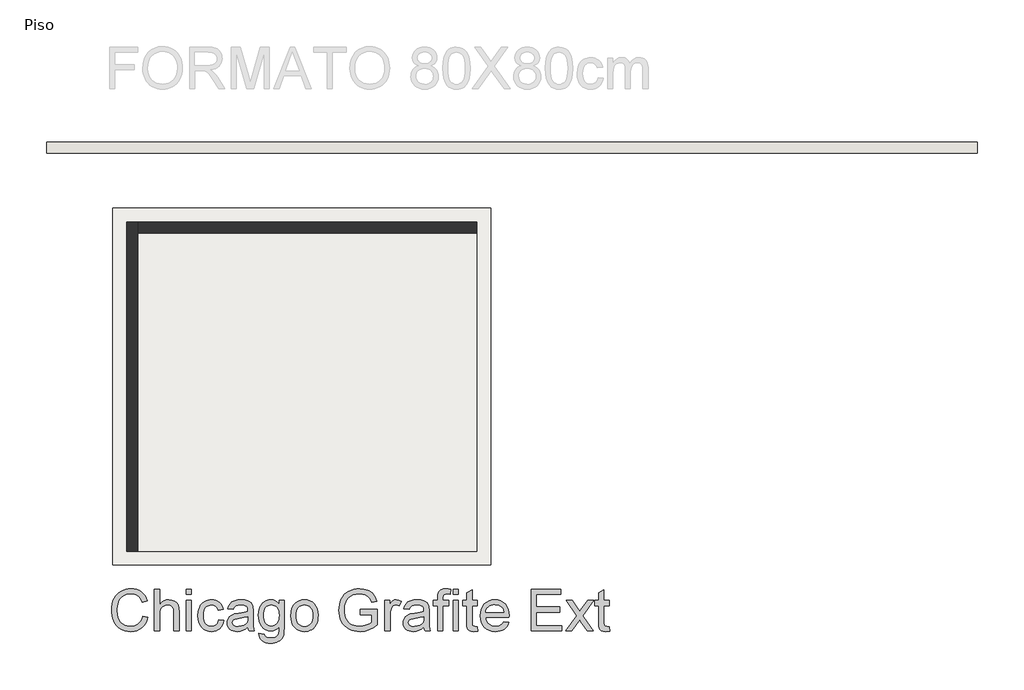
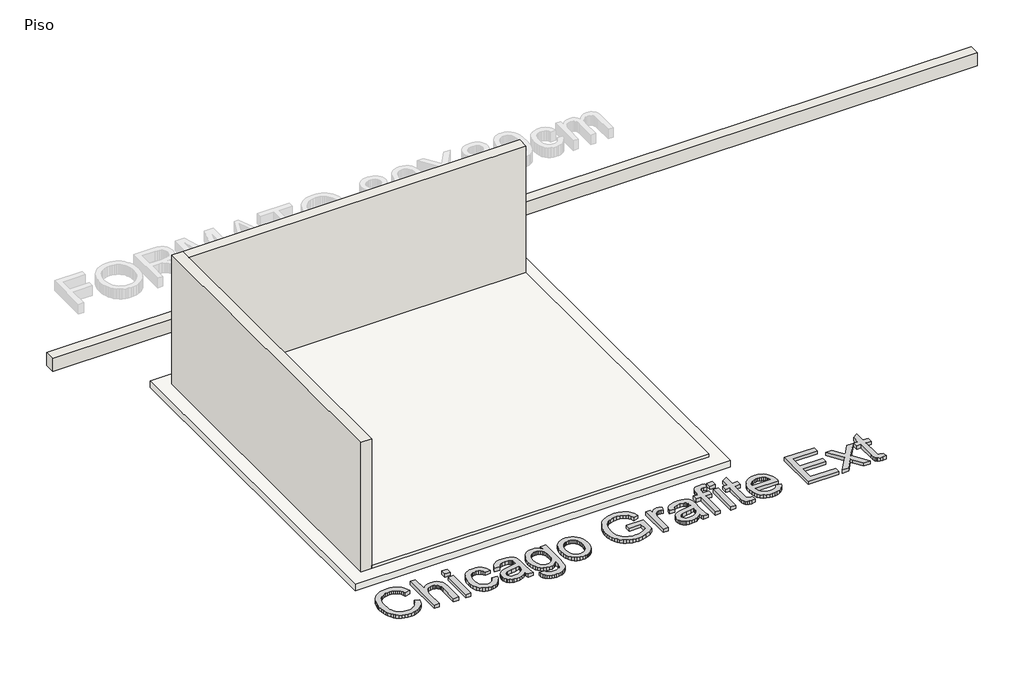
# One storey, part 1 of 2: 3 walls, 2 slabs, 1 proxy.
"""IFC4 building model written with IfcOpenShell, lengths in millimetres."""

from ifc_helpers import new_model, si_unit, frame, origin, origin_with_axes, place, context, project, spatial, polyline, outline, extrude, faceted_brep, element, save

model = new_model("IFC4")

# Units and contexts
model_context = context("Model", 3, world=origin())
ifc_project = project(units=[si_unit("LENGTHUNIT", "METRE", prefix="MILLI")], contexts=[model_context])

# Site, building, storey
site = spatial("IfcSite", under=ifc_project)
building = spatial("IfcBuilding", under=site)
storey = spatial("IfcBuildingStorey", under=building, Name="Piso", Elevation=0.0)

# Proxy
placement = place(None, origin())
element("IfcBuildingElementProxy", 1, Name="600mm Arial", ObjectType="600mm Arial", at=placement, inside=storey, context=model_context, shape_type="SweptSolid", body=[
    extrude(outline(polyline([(93081.8833446, -4951.8152741), (93157.2255772, -4971.2394434), (93142.3171594, -5018.0938141), (93122.4607287, -5059.0344816), (93097.6562852, -5094.0614461), (93067.9038288, -5123.1747075), (93033.8747443, -5146.0615661), (92996.2404162, -5162.4093222), (92955.0008445, -5172.2179759), (92910.1560293, -5175.4875272), (92864.2121666, -5173.0135207), (92822.7656613, -5165.5915015), (92785.8165134, -5153.2214694), (92753.3647229, -5135.9034245), (92724.9642329, -5113.8948841), (92700.1689864, -5087.4533657), (92678.9789835, -5056.5788693), (92661.3942241, -5021.2713948), (92647.5848538, -4983.0576525), (92637.7210178, -4943.4643528), (92631.8027162, -4902.4914956), (92629.829949, -4860.1390809), (92632.0602336, -4814.6964574), (92638.7510873, -4772.2520723), (92649.9025103, -4732.8059253), (92665.5145025, -4696.3580166), (92685.237576, -4663.510753), (92708.7222428, -4634.8665412), (92735.9685031, -4610.4253811), (92766.9763568, -4590.1872728), (92800.6927416, -4574.3177633), (92836.0645955, -4562.9823993), (92873.0919183, -4556.1811809), (92911.7747101, -4553.9141081), (92954.8674873, -4556.847967), (92994.3826121, -4565.6495438), (93030.3200845, -4580.3188383), (93062.6799045, -4600.8558507), (93090.9286432, -4626.717955), (93114.5328717, -4657.3625252), (93133.49259, -4692.7895613), (93147.8077982, -4732.9990634), (93072.4655656, -4750.9517047), (93060.6013712, -4721.3234085), (93046.3459439, -4696.0085288), (93029.6992836, -4675.0070654), (93010.6613904, -4658.3190183), (92989.1218995, -4645.6040969), (92964.9704466, -4636.5220101), (92938.2070314, -4631.0727581), (92908.8316541, -4629.2563407), (92875.0324958, -4631.2704947), (92844.1212111, -4637.3129564), (92816.0978002, -4647.383726), (92790.9622628, -4661.4828035), (92769.0318974, -4678.9755924), (92750.6240021, -4699.2274962), (92735.7385768, -4722.238515), (92724.3756217, -4748.0086488), (92709.9730416, -4803.1541598), (92705.1721816, -4859.9919281), (92710.8559584, -4929.5952016), (92717.9606794, -4960.8651712), (92727.9072889, -4989.780696), (92740.8567351, -5015.7669604), (92756.9699665, -5038.2491489), (92776.246983, -5057.2272613), (92798.6877847, -5072.7012977), (92823.2025212, -5084.7080463), (92848.701342, -5093.2842953), (92875.1842471, -5098.4300448), (92902.6512366, -5100.1452946), (92935.4065297, -5097.8092439), (92965.5406637, -5090.8010919), (92993.0536384, -5079.1208385), (93017.9454539, -5062.7684838), (93039.627499, -5041.8176042), (93057.5111625, -5016.3417761), (93071.5964443, -4986.3409993), (93081.8833446, -4951.8152741)])), origin_with_axes(), (0.0, 0.0, 1.0), 50.0),
    extrude(outline(polyline([(93251.403368, -5166.0697481), (93251.403368, -4563.3318872), (93326.7456006, -4563.3318872), (93326.7456006, -4784.9440011), (93354.4195237, -4753.9131548), (93385.4963553, -4731.7482646), (93419.9760952, -4718.4493305), (93457.8587437, -4714.0163524), (93503.3657465, -4718.8540007), (93542.4716026, -4733.3669454), (93573.2633256, -4756.4147524), (93593.8279291, -4786.8569875), (93605.416212, -4828.6851703), (93609.2789729, -4885.8908206), (93609.2789729, -5166.0697481), (93533.9367403, -5166.0697481), (93533.9367403, -4893.6899189), (93532.4376212, -4868.2508789), (93527.9402638, -4846.5274471), (93520.4446681, -4828.5196234), (93509.9508342, -4814.2274079), (93496.7070824, -4803.3472979), (93480.961733, -4795.5757907), (93462.714786, -4790.9128865), (93441.9662415, -4789.358585), (93410.1260548, -4793.5524398), (93380.2356427, -4806.134004), (93355.4771844, -4825.8892672), (93339.0328593, -4851.6042186), (93329.8174153, -4885.780456), (93326.7456006, -4930.9195768), (93326.7456006, -5166.0697481), (93251.403368, -5166.0697481)])), origin_with_axes(), (0.0, 0.0, 1.0), 50.0),
    extrude(outline(polyline([(93712.8745428, -4638.6741198), (93712.8745428, -4563.3318872), (93788.2167754, -4563.3318872), (93788.2167754, -4638.6741198), (93712.8745428, -4638.6741198)])), origin_with_axes(), (0.0, 0.0, 1.0), 50.0),
    extrude(outline(polyline([(93712.8745428, -5166.0697481), (93712.8745428, -4723.4341315), (93788.2167754, -4723.4341315), (93788.2167754, -5166.0697481), (93712.8745428, -5166.0697481)])), origin_with_axes(), (0.0, 0.0, 1.0), 50.0),
    extrude(outline(polyline([(94183.7634966, -5005.9675038), (94259.1057292, -5015.3852829), (94250.9111578, -5050.9364792), (94238.0996673, -5082.3949883), (94220.6712578, -5109.7608102), (94198.6259292, -5133.0339449), (94172.8925836, -5151.6073872), (94144.4001231, -5164.8741316), (94113.1485476, -5172.8341783), (94079.1378572, -5175.4875272), (94036.8820115, -5171.7857146), (93998.9947645, -5160.6802769), (93965.4761162, -5142.171214), (93936.3260666, -5116.2585259), (93912.7310352, -5083.4296564), (93895.8774413, -5044.172049), (93885.7652849, -4998.4857037), (93882.3945661, -4946.3706206), (93888.1519194, -4879.324127), (93895.3486109, -4849.1532048), (93905.423979, -4821.2171658), (93918.4470017, -4796.07703), (93934.4866567, -4774.2938173), (93953.542944, -4755.8675279), (93975.6158637, -4740.7981617), (93999.7075359, -4729.0811201), (94024.8200806, -4720.7118047), (94050.9534978, -4715.6902155), (94078.1077876, -4714.0163524), (94111.5344654, -4716.3156149), (94141.7697668, -4723.2134023), (94168.813692, -4734.7097146), (94192.6662409, -4750.8045519), (94212.9227432, -4771.1300322), (94229.1785289, -4795.3182734), (94241.4335979, -4823.3692755), (94249.6879501, -4855.2830386), (94174.3457175, -4864.7008176), (94160.6789014, -4831.8305614), (94139.396928, -4808.2677196), (94111.6770196, -4794.0858687), (94078.6963988, -4789.358585), (94053.0964104, -4791.6854386), (94030.0072167, -4798.6659995), (94009.4288176, -4810.3002676), (93991.3612131, -4826.5882429), (93976.6505318, -4847.9070046), (93966.1429023, -4874.6336315), (93959.8383246, -4906.7681238), (93957.7367987, -4944.3104814), (93959.7923394, -4982.4184576), (93965.9589613, -5014.9254304), (93976.2366646, -5041.8313998), (93990.6254491, -5063.1363658), (94008.3343687, -5079.3277722), (94028.5724769, -5090.8930624), (94051.3397739, -5097.8322365), (94076.6362596, -5100.1452946), (94115.6501452, -5094.3695472), (94132.5221332, -5087.1498631), (94147.6374847, -5077.0423053), (94160.5731353, -5063.9365092), (94170.9060209, -5047.7221102), (94178.6361413, -5028.3991084), (94183.7634966, -5005.9675038)])), origin_with_axes(), (0.0, 0.0, 1.0), 50.0),
    extrude(outline(polyline([(94607.563555, -5109.5630736), (94571.5663018, -5140.428373), (94534.5021908, -5160.6250946), (94495.5250934, -5171.771919), (94453.788881, -5175.4875272), (94420.2426416, -5173.252644), (94390.8258776, -5166.5479947), (94365.5385889, -5155.3735791), (94344.3807757, -5139.7293972), (94327.6743346, -5120.6087305), (94315.7411624, -5099.0048604), (94308.581259, -5074.9177867), (94306.1946246, -5048.3475096), (94309.7998681, -5017.1143282), (94320.6155988, -4988.7506264), (94337.2990473, -4964.4704147), (94358.5074443, -4945.4877038), (94383.4314495, -4931.140306), (94411.2617224, -4920.7660337), (94476.4504119, -4909.4352683), (94553.4849017, -4897.5158916), (94607.1220966, -4883.5363758), (94607.563555, -4866.7609568), (94602.3764189, -4833.1365425), (94595.8924987, -4820.6837369), (94586.8150105, -4811.1371991), (94571.1248434, -4801.6090555), (94552.0133738, -4794.8032386), (94503.5265268, -4789.358585), (94458.6449234, -4792.9822227), (94427.3013774, -4803.8531356), (94405.9274335, -4823.9578867), (94390.9546363, -4855.2830386), (94315.6124037, -4845.8652595), (94328.6906086, -4804.662476), (94348.2067484, -4772.2888605), (94375.9818391, -4747.5304022), (94413.8368964, -4729.1730906), (94460.1348455, -4717.805537), (94513.2386115, -4714.0163524), (94564.1718737, -4717.3640786), (94604.5469227, -4727.407257), (94634.9891578, -4742.5088129), (94656.1239784, -4761.0316714), (94670.1402824, -4783.9323256), (94679.2269677, -4812.1672687), (94682.9057876, -4878.0917223), (94682.9057876, -4971.8280546), (94686.7317604, -5102.7204685), (94692.3971431, -5135.07569), (94701.7413458, -5166.0697481), (94626.3991132, -5166.0697481), (94614.3325837, -5139.87655), (94607.563555, -5109.5630736)]), holes=[polyline([(94607.563555, -4958.8786084), (94556.9429925, -4971.4233844), (94486.0153438, -4981.9815977), (94421.1945363, -4994.1952799), (94404.3271468, -5002.5462012), (94391.8375531, -5014.0609077), (94384.1120312, -5027.8564825), (94381.5368572, -5043.0500089), (94387.1470576, -5065.4540224), (94403.9776589, -5083.811334), (94431.660779, -5096.0618044), (94469.828536, -5100.1452946), (94510.2955555, -5095.6387401), (94546.0536854, -5082.1190768), (94575.0427867, -5062.1982668), (94595.20272, -5038.4882722), (94604.1422525, -5014.0609077), (94607.1220966, -4980.2157641), (94607.563555, -4958.8786084)])]), origin_with_axes(), (0.0, 0.0, 1.0), 50.0),
    extrude(outline(polyline([(94767.6657993, -5203.7408644), (94843.0080319, -5213.1586435), (94851.322165, -5236.7030912), (94867.4353964, -5252.889899), (94899.1100362, -5265.4714632), (94940.5703371, -5269.6653179), (94984.7897529, -5264.9196402), (95002.6504237, -5258.987543), (95017.6784033, -5250.682607), (95040.487087, -5227.8739233), (95054.4666028, -5197.4132941), (95058.5500929, -5165.0028903), (95059.6169507, -5109.5630736), (95034.5457927, -5134.2847437), (95006.568367, -5151.9430795), (94975.6846735, -5162.5380809), (94941.8947122, -5166.0697481), (94900.5861627, -5161.9586668), (94864.216429, -5149.6254229), (94832.785511, -5129.0700164), (94806.2934088, -5100.2924474), (94785.2735513, -5065.7667221), (94770.2593674, -5027.9668471), (94761.250857, -4986.8928223), (94758.2480203, -4942.5446478), (94763.6374915, -4881.7153599), (94779.8059052, -4825.7789026), (94791.7896612, -4800.5559933), (94806.1830442, -4778.3773075), (94822.9860544, -4759.2428452), (94842.1986916, -4743.1526064), (94863.5128546, -4730.4054953), (94886.6204425, -4721.3004159), (94911.521455, -4715.8373683), (94938.2158923, -4714.0163524), (94973.4497904, -4718.1366308), (95005.4279328, -4730.4974658), (95034.1503196, -4751.0988575), (95059.6169507, -4779.940806), (95059.6169507, -4723.4341315), (95134.9591833, -4723.4341315), (95134.9591833, -5105.5899481), (95129.8088354, -5193.8264446), (95123.3709005, -5226.6461171), (95114.3577916, -5251.9334058), (95102.5533781, -5272.3278639), (95087.7415292, -5290.4690448), (95069.9222451, -5306.3569484), (95049.0955256, -5319.9915749), (95025.472903, -5330.9360642), (94999.2659094, -5338.7535566), (94970.4745447, -5343.4440521), (94939.0988091, -5345.0075505), (94902.1864494, -5342.8048571), (94868.9988949, -5336.1967768), (94839.5361456, -5325.1833095), (94813.7982015, -5309.7644554), (94793.0082703, -5289.9218203), (94778.3895595, -5265.6370101), (94769.9420692, -5236.9100248), (94767.6657993, -5203.7408644)]), holes=[polyline([(94833.5902529, -4937.3942999), (94835.5998083, -4974.6469504), (94841.6284745, -5006.5009327), (94851.6762515, -5032.9562467), (94865.7431392, -5054.0128924), (94882.8450535, -5070.07554), (94901.9979099, -5081.5488597), (94923.2017084, -5088.4328515), (94946.456449, -5090.7275155), (94969.4812634, -5088.4466471), (94990.5838943, -5081.604042), (95009.7643418, -5070.1997001), (95027.0226059, -5054.2336216), (95041.2826318, -5033.3839095), (95051.4683645, -5007.3286672), (95057.5798042, -4976.0678946), (95059.6169507, -4939.6015919), (95057.5200233, -4904.6574008), (95051.2292412, -4874.2841436), (95040.7446043, -4848.4818202), (95026.0661127, -4827.2504305), (95008.4353681, -4810.6727481), (94989.0939722, -4798.8315464), (94968.0419251, -4791.7268254), (94945.2792266, -4789.358585), (94922.8982057, -4791.6900372), (94902.2554273, -4798.6843936), (94883.3508912, -4810.3416543), (94866.1845976, -4826.6618193), (94851.9245718, -4847.5713122), (94841.7388391, -4872.9965566), (94835.6273994, -4902.9375525), (94833.5902529, -4937.3942999)])]), origin_with_axes(), (0.0, 0.0, 1.0), 50.0),
    extrude(outline(polyline([(95229.1369741, -4944.7519398), (95233.2112672, -4887.4267279), (95245.4341465, -4838.029373), (95265.8056119, -4796.5598751), (95294.3256636, -4763.0182342), (95323.0388533, -4741.5799109), (95354.7318872, -4726.2668229), (95389.4047653, -4717.07897), (95427.0574875, -4714.0163524), (95468.6235544, -4717.7457561), (95506.2072987, -4728.9339673), (95539.8087205, -4747.580986), (95569.4278196, -4773.686812), (95593.6022652, -4806.3685288), (95610.8697264, -4844.7432194), (95621.2302031, -4888.8108839), (95624.6836953, -4938.5715223), (95623.156985, -4978.900586), (95618.5768542, -5014.6863071), (95610.9433028, -5045.9286855), (95600.2563308, -5072.6277213), (95586.6492955, -5095.6893239), (95570.2555541, -5116.0194026), (95551.0751066, -5133.6179576), (95529.1079529, -5148.4849887), (95505.2094188, -5160.2985993), (95480.2348299, -5168.7368926), (95454.1841861, -5173.7998685), (95427.0574875, -5175.4875272), (95384.8844153, -5171.771919), (95346.951183, -5160.6250946), (95313.2577908, -5142.0470538), (95283.8042386, -5116.0377967), (95259.8873104, -5083.0387818), (95242.8037902, -5043.4914673), (95232.5536781, -4997.3958533), (95229.1369741, -4944.7519398)]), holes=[polyline([(95304.4792067, -4944.604787), (95306.6589075, -4981.1492647), (95313.19801, -5012.7917148), (95324.0965141, -5039.5321373), (95339.3544198, -5061.3705323), (95357.9140665, -5078.3344908), (95378.7177933, -5090.451604), (95401.7656003, -5097.7218719), (95427.0574875, -5100.1452946), (95452.220616, -5097.7080763), (95475.1764525, -5090.3964217), (95495.924997, -5078.2103306), (95514.4662495, -5061.1498031), (95529.7241553, -5039.0952775), (95540.6226594, -5011.9271921), (95547.1617619, -4979.645547), (95549.3414627, -4942.2503422), (95547.1479663, -4906.8646928), (95540.5674771, -4876.0499772), (95529.5999951, -4849.8061954), (95514.2455203, -4828.1333473), (95495.6352899, -4811.1693888), (95474.900541, -4799.0522756), (95452.0412735, -4791.7820077), (95427.0574875, -4789.358585), (95401.7656003, -4791.7728106), (95378.7177933, -4799.0154874), (95357.9140665, -4811.0866154), (95339.3544198, -4827.9861945), (95324.0965141, -4849.7602101), (95313.19801, -4876.4546474), (95306.6589075, -4908.0695063), (95304.4792067, -4944.604787)])]), origin_with_axes(), (0.0, 0.0, 1.0), 50.0),
    extrude(outline(polyline([(96236.8393353, -4930.6252712), (96236.8393353, -4855.2830386), (96481.7015913, -4855.2830386), (96481.7015913, -5080.5739724), (96422.1966785, -5121.9606969), (96360.8155676, -5151.6487739), (96297.7054114, -5169.5278388), (96233.0133625, -5175.4875272), (96189.7366443, -5173.1192868), (96148.4924741, -5166.0145658), (96109.280852, -5154.1733641), (96072.1017778, -5137.5956817), (96038.1554667, -5116.5298389), (96008.6421337, -5091.2241562), (95983.5617786, -5061.6786334), (95962.9144017, -5027.8932707), (95946.7873747, -4990.9487213), (95935.2680697, -4951.9256387), (95928.3564867, -4910.8240228), (95926.0526257, -4867.6438736), (95928.3472897, -4824.4591259), (95935.2312815, -4782.7551032), (95946.7046012, -4742.5318056), (95962.7672489, -4703.789233), (95983.1341158, -4668.2288396), (96007.5200936, -4637.5520797), (96035.9251821, -4611.7589533), (96068.3493815, -4590.8494604), (96104.0891173, -4574.6902438), (96142.4408153, -4563.1479462), (96183.4044755, -4556.2225676), (96226.9800978, -4553.9141081), (96289.0417904, -4559.2667911), (96344.8494891, -4575.3248402), (96369.7688957, -4587.07867), (96391.8464139, -4600.9294271), (96411.0820438, -4616.8771116), (96427.4757852, -4634.9217235), (96453.8345301, -4678.9388042), (96473.0195762, -4734.6177441), (96403.5634555, -4754.1890663), (96388.0572294, -4714.4762049), (96369.2032771, -4684.5122164), (96344.2608779, -4661.9242619), (96310.4893107, -4644.3395025), (96270.2246263, -4633.0271312), (96225.8028754, -4629.2563407), (96173.8027554, -4633.3214368), (96129.3442163, -4645.5167249), (96092.592805, -4664.3154949), (96063.7140683, -4688.1910364), (96041.5491781, -4715.9109447), (96024.939306, -4746.2428152), (96007.2809703, -4803.1173716), (96001.3948584, -4864.5536648), (96003.1652905, -4902.1741974), (96008.4765868, -4936.6033536), (96017.3287473, -4967.8411335), (96029.721772, -4995.8875371), (96045.4947125, -5020.6367983), (96064.4866205, -5041.9831511), (96086.697496, -5059.9265954), (96112.1273389, -5074.4671313), (96139.5851313, -5085.7013277), (96167.8798553, -5093.7257537), (96197.0115108, -5098.5404094), (96226.9800978, -5100.1452946), (96279.1641588, -5095.3076463), (96330.0606328, -5080.7947016), (96374.2616546, -5060.8003152), (96406.3593586, -5039.5183418), (96406.3593586, -4930.6252712), (96236.8393353, -4930.6252712)])), origin_with_axes(), (0.0, 0.0, 1.0), 50.0),
    extrude(outline(polyline([(96594.7149402, -5166.0697481), (96594.7149402, -4723.4341315), (96660.6393937, -4723.4341315), (96660.6393937, -4788.9171266), (96684.9931818, -4750.9517047), (96707.4339835, -4728.5844794), (96729.9483616, -4717.6583842), (96754.5228789, -4714.0163524), (96792.0468424, -4719.8288879), (96830.1594171, -4737.2664945), (96804.9962886, -4804.8096288), (96778.508785, -4793.221346), (96752.0212813, -4789.358585), (96729.5252973, -4793.0741932), (96709.4205463, -4804.2210176), (96693.1785562, -4821.9529298), (96682.270855, -4845.4238011), (96673.1105933, -4887.5095013), (96670.0571728, -4933.4211743), (96670.0571728, -5166.0697481), (96594.7149402, -5166.0697481)])), origin_with_axes(), (0.0, 0.0, 1.0), 50.0),
    extrude(outline(polyline([(97159.7816848, -5109.5630736), (97123.7844315, -5140.428373), (97086.7203205, -5160.6250946), (97047.7432231, -5171.771919), (97006.0070108, -5175.4875272), (96972.4607713, -5173.252644), (96943.0440073, -5166.5479947), (96917.7567187, -5155.3735791), (96896.5989054, -5139.7293972), (96879.8924643, -5120.6087305), (96867.9592921, -5099.0048604), (96860.7993888, -5074.9177867), (96858.4127543, -5048.3475096), (96862.0179979, -5017.1143282), (96872.8337285, -4988.7506264), (96889.517177, -4964.4704147), (96910.725574, -4945.4877038), (96935.6495792, -4931.140306), (96963.4798521, -4920.7660337), (97028.6685417, -4909.4352683), (97105.7030315, -4897.5158916), (97159.3402264, -4883.5363758), (97159.7816848, -4866.7609568), (97154.5945486, -4833.1365425), (97148.1106285, -4820.6837369), (97139.0331402, -4811.1371991), (97123.3429731, -4801.6090555), (97104.2315035, -4794.8032386), (97055.7446565, -4789.358585), (97010.8630531, -4792.9822227), (96979.5195071, -4803.8531356), (96958.1455632, -4823.9578867), (96943.172766, -4855.2830386), (96867.8305334, -4845.8652595), (96880.9087383, -4804.662476), (96900.4248782, -4772.2888605), (96928.1999688, -4747.5304022), (96966.0550261, -4729.1730906), (97012.3529752, -4717.805537), (97065.4567412, -4714.0163524), (97116.3900034, -4717.3640786), (97156.7650524, -4727.407257), (97187.2072875, -4742.5088129), (97208.3421081, -4761.0316714), (97222.3584121, -4783.9323256), (97231.4450974, -4812.1672687), (97235.1239174, -4878.0917223), (97235.1239174, -4971.8280546), (97238.9498901, -5102.7204685), (97244.6152729, -5135.07569), (97253.9594755, -5166.0697481), (97178.6172429, -5166.0697481), (97166.5507135, -5139.87655), (97159.7816848, -5109.5630736)]), holes=[polyline([(97159.7816848, -4958.8786084), (97109.1611222, -4971.4233844), (97038.2334736, -4981.9815977), (96973.412666, -4994.1952799), (96956.5452765, -5002.5462012), (96944.0556828, -5014.0609077), (96936.3301609, -5027.8564825), (96933.7549869, -5043.0500089), (96939.3651874, -5065.4540224), (96956.1957886, -5083.811334), (96983.8789088, -5096.0618044), (97022.0466658, -5100.1452946), (97062.5136852, -5095.6387401), (97098.2718152, -5082.1190768), (97127.2609164, -5062.1982668), (97147.4208497, -5038.4882722), (97156.3603822, -5014.0609077), (97159.3402264, -4980.2157641), (97159.7816848, -4958.8786084)])]), origin_with_axes(), (0.0, 0.0, 1.0), 50.0),
    extrude(outline(polyline([(97357.5550454, -5166.0697481), (97357.5550454, -4798.7763641), (97291.6305918, -4798.7763641), (97291.6305918, -4723.4341315), (97357.5550454, -4723.4341315), (97357.5550454, -4678.8468337), (97359.5416081, -4641.9482696), (97365.5012965, -4616.0125889), (97380.6580347, -4590.959825), (97404.0553296, -4571.1309855), (97436.7968271, -4558.2183275), (97479.9861734, -4553.9141081), (97512.6908827, -4555.9742473), (97548.7065301, -4562.1546648), (97537.6700702, -4632.7880079), (97494.2599948, -4629.2563407), (97465.6203815, -4632.3833377), (97446.8032174, -4641.7643286), (97436.3737628, -4659.6801817), (97432.897278, -4688.4117656), (97432.897278, -4723.4341315), (97517.6572897, -4723.4341315), (97517.6572897, -4798.7763641), (97432.897278, -4798.7763641), (97432.897278, -5166.0697481), (97357.5550454, -5166.0697481)])), origin_with_axes(), (0.0, 0.0, 1.0), 50.0),
    extrude(outline(polyline([(97583.5817432, -4638.6741198), (97583.5817432, -4563.3318872), (97658.9239758, -4563.3318872), (97658.9239758, -4638.6741198), (97583.5817432, -4638.6741198)])), origin_with_axes(), (0.0, 0.0, 1.0), 50.0),
    extrude(outline(polyline([(97583.5817432, -5166.0697481), (97583.5817432, -4723.4341315), (97658.9239758, -4723.4341315), (97658.9239758, -5166.0697481), (97583.5817432, -5166.0697481)])), origin_with_axes(), (0.0, 0.0, 1.0), 50.0),
    extrude(outline(polyline([(97932.039569, -5103.2355033), (97941.4573481, -5168.2770401), (97885.0978265, -5175.4875272), (97848.9350263, -5172.3605302), (97821.9692761, -5162.9795393), (97802.9129887, -5148.5217769), (97790.4785773, -5130.1644654), (97783.6359722, -5098.6369784), (97781.3551038, -5044.6686897), (97781.3551038, -4798.7763641), (97724.8484294, -4798.7763641), (97724.8484294, -4723.4341315), (97781.3551038, -4723.4341315), (97781.3551038, -4615.8654361), (97856.6973364, -4571.5724439), (97856.6973364, -4723.4341315), (97932.039569, -4723.4341315), (97932.039569, -4798.7763641), (97856.6973364, -4798.7763641), (97856.6973364, -5042.4613977), (97860.670462, -5081.3097364), (97873.5463318, -5095.068523), (97884.4172448, -5098.8761017), (97899.2244951, -5100.1452946), (97932.039569, -5103.2355033)])), origin_with_axes(), (0.0, 0.0, 1.0), 50.0),
    extrude(outline(polyline([(98317.2855944, -5034.220841), (98391.156299, -5043.6386201), (98379.8301321, -5073.2255296), (98364.5400367, -5099.299166), (98345.2860127, -5121.8595293), (98322.0680603, -5140.9066196), (98295.1253027, -5156.0357667), (98264.6968632, -5166.8423003), (98230.7827418, -5173.3262204), (98193.3829384, -5175.4875272), (98146.6343339, -5171.7581234), (98104.980895, -5160.5699123), (98068.4226217, -5141.9228936), (98036.9595141, -5115.8170675), (98011.6584298, -5082.979001), (97993.5862268, -5044.1352608), (97982.742905, -4999.2858471), (97979.1284644, -4948.4307597), (97982.7796932, -4895.8512256), (97993.7333796, -4849.5072912), (98011.9895236, -4809.3989567), (98037.5481253, -4775.526222), (98068.9284594, -4748.6156541), (98104.6498012, -4729.3938198), (98144.7121505, -4717.8607193), (98189.1155073, -4714.0163524), (98232.0887228, -4717.8515222), (98270.9508571, -4729.3570316), (98305.7019101, -4748.5328806), (98336.3418817, -4775.3790692), (98361.3532589, -4809.1782275), (98379.2185283, -4849.2129856), (98389.9376899, -4895.4833436), (98393.5107438, -4947.9893014), (98393.0692854, -4968.2963875), (98054.470697, -4968.2963875), (98058.8346972, -4998.3615435), (98067.5121138, -5024.6926973), (98080.5029467, -5047.2898489), (98097.8071961, -5066.1529982), (98118.4683686, -5081.0246279), (98141.5299712, -5091.6472205), (98166.9920038, -5098.020776), (98194.8544664, -5100.1452946), (98234.9536039, -5096.2089572), (98268.725171, -5084.3999452), (98296.1691679, -5063.9824944), (98317.2855944, -5034.220841)]), holes=[polyline([(98054.470697, -4892.9541549), (98318.1685112, -4892.9541549), (98307.9781799, -4853.149323), (98299.2133914, -4837.4959441), (98288.0021876, -4824.6752566), (98267.4559781, -4809.2242128), (98244.0770774, -4798.1877529), (98217.8654852, -4791.565877), (98188.8212017, -4789.358585), (98162.3290995, -4791.1198201), (98138.0350922, -4796.4035252), (98115.9391799, -4805.2097005), (98096.0413625, -4817.5383459), (98079.3441184, -4832.8192442), (98066.8499262, -4850.4821785), (98058.5587857, -4870.5271487), (98054.470697, -4892.9541549)])]), origin_with_axes(), (0.0, 0.0, 1.0), 50.0),
    extrude(outline(polyline([(98713.7152324, -5166.0697481), (98713.7152324, -4563.3318872), (99146.9330699, -4563.3318872), (99146.9330699, -4638.6741198), (98789.057465, -4638.6741198), (98789.057465, -4817.6119223), (99128.0975118, -4817.6119223), (99128.0975118, -4892.9541549), (98789.057465, -4892.9541549), (98789.057465, -5090.7275155), (99156.350849, -5090.7275155), (99156.350849, -5166.0697481), (98713.7152324, -5166.0697481)])), origin_with_axes(), (0.0, 0.0, 1.0), 50.0),
    extrude(outline(polyline([(99212.8575235, -5166.0697481), (99373.8426845, -4943.5747174), (99222.2753025, -4723.4341315), (99312.9214261, -4723.4341315), (99386.0563668, -4829.3841461), (99420.1958159, -4879.4160974), (99449.7735283, -4838.5076196), (99533.0620121, -4723.4341315), (99623.7081357, -4723.4341315), (99464.4888082, -4943.5747174), (99617.8220237, -5166.0697481), (99527.1759001, -5166.0697481), (99434.9110957, -5032.3078546), (99417.988524, -5007.8804902), (99303.5036471, -5166.0697481), (99212.8575235, -5166.0697481)])), origin_with_axes(), (0.0, 0.0, 1.0), 50.0),
    extrude(outline(polyline([(99843.8487216, -5103.2355033), (99853.2665007, -5168.2770401), (99796.906979, -5175.4875272), (99760.7441789, -5172.3605302), (99733.7784286, -5162.9795393), (99714.7221413, -5148.5217769), (99702.2877298, -5130.1644654), (99695.4451247, -5098.6369784), (99693.1642564, -5044.6686897), (99693.1642564, -4798.7763641), (99636.6575819, -4798.7763641), (99636.6575819, -4723.4341315), (99693.1642564, -4723.4341315), (99693.1642564, -4615.8654361), (99768.506489, -4571.5724439), (99768.506489, -4723.4341315), (99843.8487216, -4723.4341315), (99843.8487216, -4798.7763641), (99768.506489, -4798.7763641), (99768.506489, -5042.4613977), (99772.4796145, -5081.3097364), (99785.3554843, -5095.068523), (99796.2263973, -5098.8761017), (99811.0336476, -5100.1452946), (99843.8487216, -5103.2355033)])), origin_with_axes(), (0.0, 0.0, 1.0), 50.0),
])

# Slabs
element("IfcSlab", 2, ObjectType="5cm - Porcelanato Chicago Grafite Ext  - Externo 80x80", at=placement, inside=storey, context=model_context, shape_type="SweptSolid", body=[
    extrude(outline(polyline([(97927.7735131, 610.0638832), (97927.7735131, -4010.5361168), (93007.1735131, -4010.5361168), (93007.1735131, 610.0638832), (97927.7735131, 610.0638832)])), origin_with_axes(), (0.0, 0.0, 1.0), 50.0),
])
element("IfcSlab", 3, ObjectType="CO02 - Concreto Estrutural Simples", at=placement, inside=storey, context=model_context, shape_type="SweptSolid", body=[
    extrude(outline(polyline([(98127.7735131, 968.8638832), (98127.7735131, -4210.5361168), (92648.3735131, -4210.5361168), (92648.3735131, 968.8638832), (98127.7735131, 968.8638832)])), frame((0.0, 0.0, -100.0), z_axis=(0.0, 0.0, 1.0), x_axis=(1.0, 0.0, 0.0)), (0.0, 0.0, 1.0), 100.0),
])

# Walls
element("IfcWall", 4, ObjectType="CO01 - Bloco de Concreto 14cm / Pintura Branca Simples", at=placement, inside=storey, context=model_context, shape_type="SweptSolid", body=[
    extrude(outline(polyline([(105186.699165, 1765.7486968), (91686.699165, 1765.7486968), (91686.699165, 1924.5486968), (105186.699165, 1924.5486968), (105186.699165, 1765.7486968)])), origin_with_axes(), (0.0, 0.0, 1.0), 200.0),
])
element("IfcWall", 5, ObjectType="CO01 - Bloco de Concreto 14cm / Pintura Branca Simples", at=placement, inside=storey, context=model_context, shape_type="Brep", body=[
    faceted_brep([(93007.1735131, -4010.5361168, 0.0), (93007.1735131, 610.0638832, 0.0), (93007.1735131, 768.8638832, 0.0), (93007.1735131, 768.8638832, 2000.0), (93007.1735131, 610.0638832, 2000.0), (93007.1735131, -4010.5361168, 2000.0), (92848.3735131, -4010.5361168, 0.0), (92848.3735131, -4010.5361168, 2000.0), (92848.3735131, 768.8638832, 2000.0), (92848.3735131, 768.8638832, 0.0)], [[[0, 1, 2, 3, 4, 5]], [[6, 7, 8, 9]], [[2, 1, 0, 6, 9]], [[5, 4, 3, 8, 7]], [[0, 5, 7, 6]], [[3, 2, 9, 8]]]),
])
element("IfcWall", 6, ObjectType="CO01 - Bloco de Concreto 14cm / Pintura Branca Simples", at=placement, inside=storey, context=model_context, shape_type="SweptSolid", body=[
    extrude(outline(polyline([(97927.7735131, 610.0638832), (93007.1735131, 610.0638832), (93007.1735131, 768.8638832), (97927.7735131, 768.8638832), (97927.7735131, 610.0638832)])), origin_with_axes(), (0.0, 0.0, 1.0), 2000.0),
])

save(model, "model.ifc")
